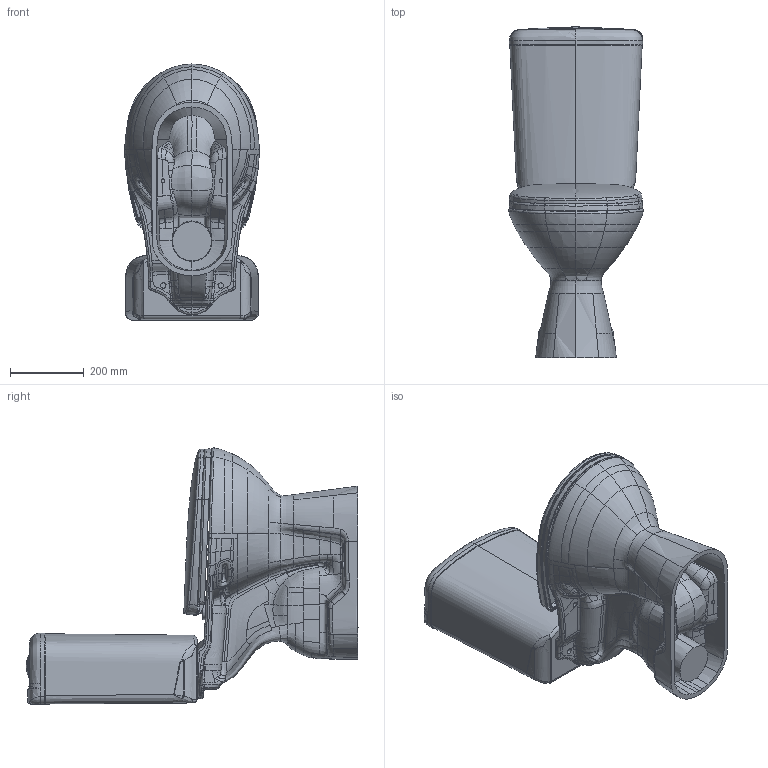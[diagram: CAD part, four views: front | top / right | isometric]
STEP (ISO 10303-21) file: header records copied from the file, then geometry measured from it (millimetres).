
FILE_DESCRIPTION (( 'STEP AP203' ), '1' );
FILE_NAME ('PA300-00CB00E-0000+PA41000CB00E0000+KC0703.01.STEP', '2022-04-21T10:44:31', ( '' ), ( '' ), 'SwSTEP 2.0', 'SolidWorks 2021', '' );
FILE_SCHEMA (( 'CONFIG_CONTROL_DESIGN' ));
Products named in the file (1): PA300-00CB00E-0000+PA41000CB00E0000+KC0703.01
Bounding box: 363.97 x 898.4 x 692.94 mm (x, y, z)
Volume: 28304377.6 mm3; surface area: 2780733.5 mm2
Topology: 17 solids, 17 shells, 2482 faces, 6749 edges, 4319 vertices
Faces by surface type: bspline 1591, plane 443, cylinder 235, torus 104, cone 99, sphere 10
Entity records: 695951 total; most frequent: CARTESIAN_POINT 648569, ORIENTED_EDGE 13422, EDGE_CURVE 6711, DIRECTION 4584, B_SPLINE_CURVE_WITH_KNOTS 4394, VERTEX_POINT 4319, EDGE_LOOP 2562, ADVANCED_FACE 2482
